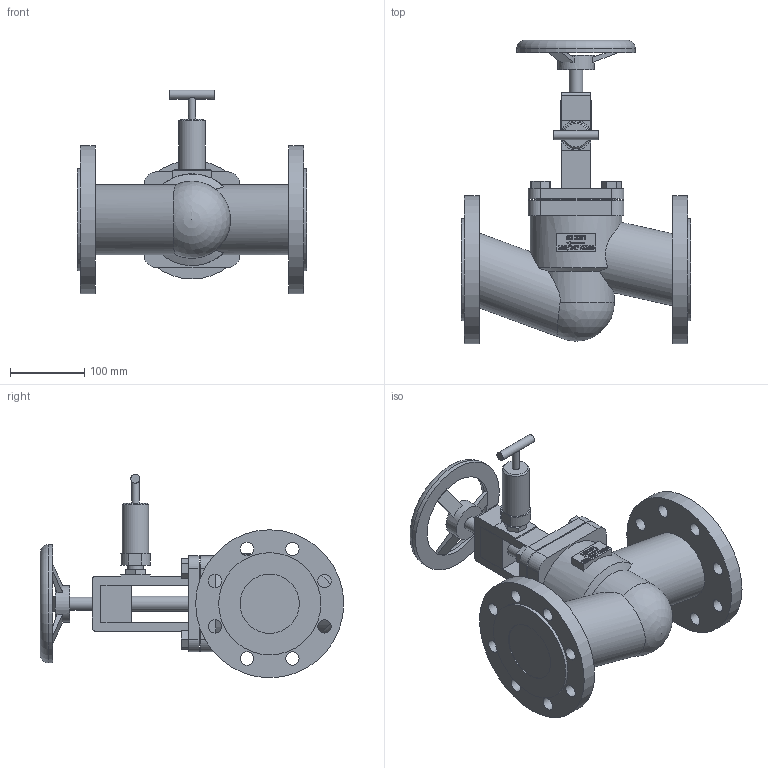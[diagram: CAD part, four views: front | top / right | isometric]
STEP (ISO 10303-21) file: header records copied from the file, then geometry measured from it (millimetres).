
FILE_DESCRIPTION(/* description */ (''),/* implementation_level */ '2;1');
FILE_NAME(/* name */ '100-247HP-DN80-PN16.stp',/* time_stamp */ '2024-07-08T21:51:39+02:00',/* author */ ('roger.thijssen'),/* organization */ (''),/* preprocessor_version */ 'ST-DEVELOPER v20',/* originating_system */ 'Autodesk Inventor 2024',/* authorisation */ '');
FILE_SCHEMA (('AUTOMOTIVE_DESIGN { 1 0 10303 214 3 1 1 }'));
Length unit declared in the file: millimetre
Products named in the file (1): 100-247HP-DN80-PN16
Bounding box: 310 x 410 x 275 mm (x, y, z)
Volume: 5227862.4 mm3; surface area: 401400.3 mm2
Topology: 1 solids, 1 shells, 374 faces, 978 edges, 650 vertices
Faces by surface type: plane 230, bspline 78, cylinder 61, cone 3, torus 1, sphere 1
Full cylindrical faces by diameter (mm): 10 x1, 12 x1, 18 x17, 20 x1, 21 x1, 36 x1, 49.55 x1, 80 x2, 95 x2, 110 x1, 116 x1, 124 x1, 138 x2, 160 x1, 200 x2
Entity records: 12817 total; most frequent: CARTESIAN_POINT 3467, ORIENTED_EDGE 1954, DIRECTION 1545, EDGE_CURVE 977, LINE 659, VECTOR 659, VERTEX_POINT 650, EDGE_LOOP 461
